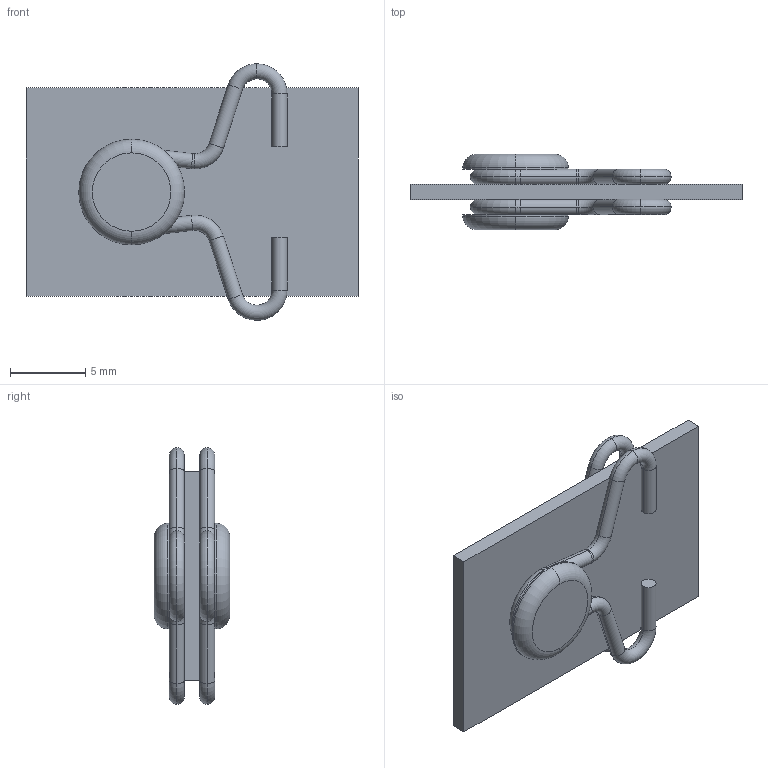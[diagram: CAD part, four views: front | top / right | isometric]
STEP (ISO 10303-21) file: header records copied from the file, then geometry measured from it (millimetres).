
FILE_DESCRIPTION (( 'STEP AP203' ), '1' );
FILE_NAME ('RLA-14x22.STEP', '2015-12-10T16:05:23', ( 'Balzi' ), ( '' ), 'SwSTEP 2.0', 'SolidWorks 2015', '' );
FILE_SCHEMA (( 'CONFIG_CONTROL_DESIGN' ));
Length unit declared in the file: millimetre
Products named in the file (1): RLA-14x22
Bounding box: 22 x 5 x 16.99 mm (x, y, z)
Volume: 430.1 mm3; surface area: 1125.2 mm2
Topology: 5 solids, 5 shells, 84 faces, 162 edges, 88 vertices
Faces by surface type: torus 40, cylinder 30, plane 14
Entity records: 2199 total; most frequent: DIRECTION 452, CARTESIAN_POINT 335, ORIENTED_EDGE 324, AXIS2_PLACEMENT_3D 205, EDGE_CURVE 162, CIRCLE 120, VERTEX_POINT 88, EDGE_LOOP 86
